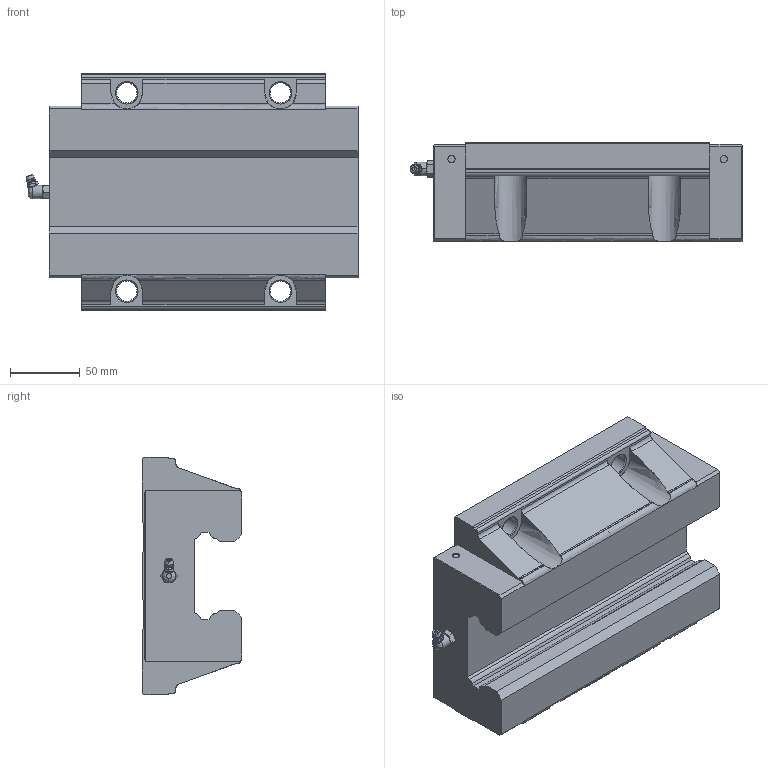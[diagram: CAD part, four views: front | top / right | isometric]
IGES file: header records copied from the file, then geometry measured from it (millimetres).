
Start section: SolidWorks IGES file using analytic representation for surfaces
Global section: file name: C:\Users\EOS\Desktop\output_#task\SHS65C.igs; native system: SolidWorks 2017; preprocessor: SolidWorks 2017; author: EOS; date: 170918.091440; units: millimetre
Bounding box: 237.7 x 71 x 170 mm (x, y, z)
Surface area: 138545.1 mm2 (no closed solid volume)
Topology: 0 solids, 0 shells, 200 faces, 2664 edges, 2657 vertices
Faces by surface type: bspline 114, revolution 86
